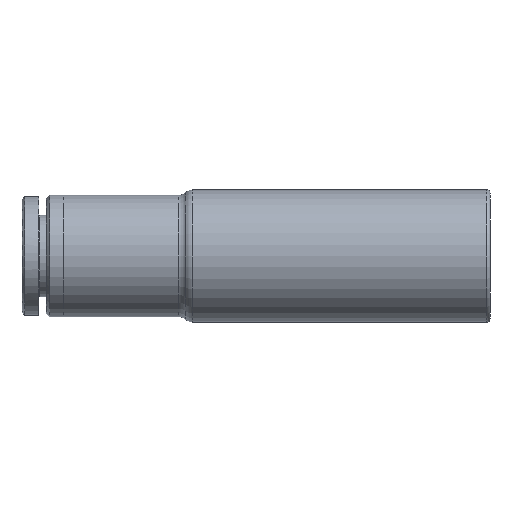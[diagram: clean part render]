
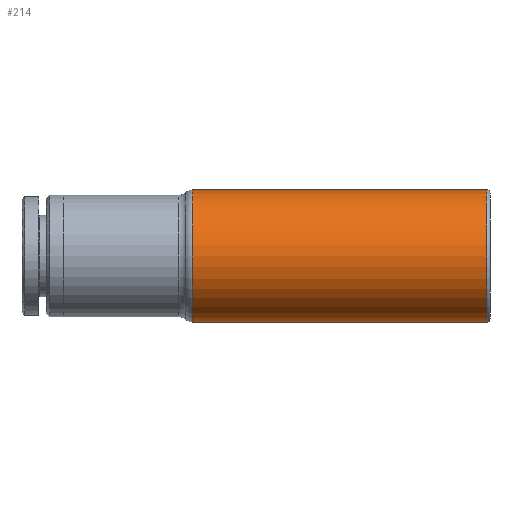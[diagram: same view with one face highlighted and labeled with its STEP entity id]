
A CAD part, front view. The second image highlights one B-rep face of the part: STEP entity #214.
In plain terms, the highlighted cylindrical face has radius 6.35 mm (diameter 12.7 mm), a full revolution.
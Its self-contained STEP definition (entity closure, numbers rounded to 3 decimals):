
#180=CARTESIAN_POINT('',(40.7,6.35,0.0));
#181=VERTEX_POINT('',#180);
#182=CARTESIAN_POINT('',(40.7,0.,0.0));
#183=DIRECTION('',(1.0,0.0,0.0));
#184=DIRECTION('',(0.0,-1.0,0.0));
#185=AXIS2_PLACEMENT_3D('',#182,#183,#184);
#186=CIRCLE('',#185,6.35);
#187=EDGE_CURVE('',#181,#181,#186,.T.);
#195=CARTESIAN_POINT('',(26.5,0.,0.0));
#196=DIRECTION('',(1.0,0.,0.0));
#197=DIRECTION('',(0.0,1.0,0.0));
#198=AXIS2_PLACEMENT_3D('',#195,#196,#197);
#199=CYLINDRICAL_SURFACE('',#198,6.35);
#200=CARTESIAN_POINT('',(12.409,-6.35,0.));
#201=VERTEX_POINT('',#200);
#202=CARTESIAN_POINT('',(12.409,0.,0.0));
#203=DIRECTION('',(-1.0,0.0,0.0));
#204=DIRECTION('',(0.0,1.0,0.0));
#205=AXIS2_PLACEMENT_3D('',#202,#203,#204);
#206=CIRCLE('',#205,6.35);
#207=EDGE_CURVE('',#201,#201,#206,.T.);
#208=ORIENTED_EDGE('',*,*,#207,.F.);
#209=EDGE_LOOP('',(#208));
#210=FACE_OUTER_BOUND('',#209,.T.);
#211=ORIENTED_EDGE('',*,*,#187,.F.);
#212=EDGE_LOOP('',(#211));
#213=FACE_BOUND('',#212,.T.);
#214=ADVANCED_FACE('',(#210,#213),#199,.T.);
